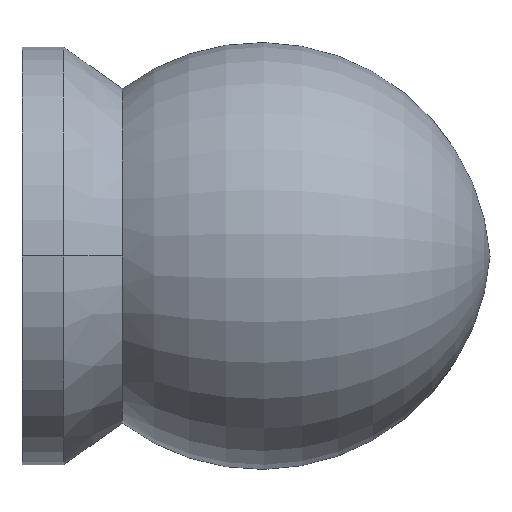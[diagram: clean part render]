
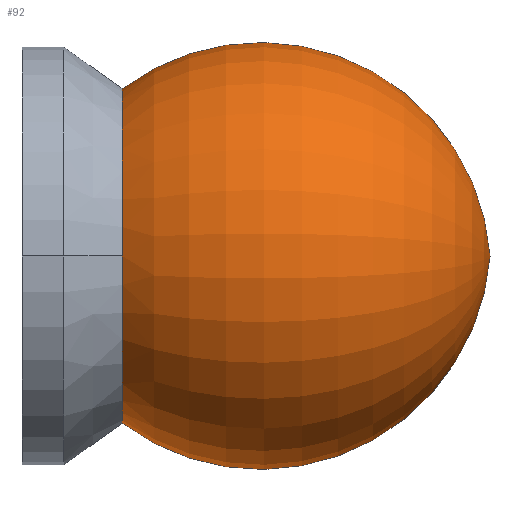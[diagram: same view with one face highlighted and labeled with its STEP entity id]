
A CAD part, left-side view. The second image highlights one B-rep face of the part: STEP entity #92.
In plain terms, the highlighted toroidal (fillet/blend) face has major radius 0.983 mm and minor radius 13.755 mm.
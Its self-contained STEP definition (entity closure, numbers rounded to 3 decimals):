
#76 = EDGE_CURVE( '', #102, #144, #181, .T. );
#78 = EDGE_CURVE( '', #144, #104, #183, .T. );
#84 = VERTEX_POINT( '', #192 );
#92 = ADVANCED_FACE( '', ( #201 ), #202, .T. );
#102 = VERTEX_POINT( '', #213 );
#104 = VERTEX_POINT( '', #215 );
#140 = EDGE_CURVE( '', #102, #84, #254, .T. );
#144 = VERTEX_POINT( '', #258 );
#146 = EDGE_CURVE( '', #84, #104, #260, .T. );
#181 = CIRCLE( '', #289, 10. );
#183 = CIRCLE( '', #292, 10. );
#192 = CARTESIAN_POINT( '', ( 0., -28., 0. ) );
#201 = FACE_OUTER_BOUND( '', #311, .T. );
#202 = TOROIDAL_SURFACE( '', #312, -0.983, 13.755 );
#213 = CARTESIAN_POINT( '', ( 0., -6., -10. ) );
#215 = CARTESIAN_POINT( '', ( 0., -6., 10. ) );
#254 = CIRCLE( '', #380, 13.755 );
#258 = CARTESIAN_POINT( '', ( -10., -6., 0. ) );
#260 = CIRCLE( '', #387, 13.755 );
#289 = AXIS2_PLACEMENT_3D( '', #416, #417, #418 );
#292 = AXIS2_PLACEMENT_3D( '', #419, #420, #421 );
#311 = EDGE_LOOP( '', ( #448, #449, #450, #451 ) );
#312 = AXIS2_PLACEMENT_3D( '', #452, #453, #454 );
#380 = AXIS2_PLACEMENT_3D( '', #512, #513, #514 );
#387 = AXIS2_PLACEMENT_3D( '', #515, #516, #517 );
#416 = CARTESIAN_POINT( '', ( 0., -6., 0. ) );
#417 = DIRECTION( '', ( 0., 1., 0. ) );
#418 = DIRECTION( '', ( 1., 0., 0. ) );
#419 = CARTESIAN_POINT( '', ( 0., -6., 0. ) );
#420 = DIRECTION( '', ( 0., 1., 0. ) );
#421 = DIRECTION( '', ( 1., 0., 0. ) );
#448 = ORIENTED_EDGE( '', *, *, #140, .T. );
#449 = ORIENTED_EDGE( '', *, *, #146, .T. );
#450 = ORIENTED_EDGE( '', *, *, #78, .F. );
#451 = ORIENTED_EDGE( '', *, *, #76, .F. );
#452 = CARTESIAN_POINT( '', ( 0., -14.28, 0. ) );
#453 = DIRECTION( '', ( 0., 1., 0. ) );
#454 = DIRECTION( '', ( 0., 0., 1. ) );
#512 = CARTESIAN_POINT( '', ( 0., -14.28, 0.983 ) );
#513 = DIRECTION( '', ( -1., 0., 0. ) );
#514 = DIRECTION( '', ( 0., 0., -1. ) );
#515 = CARTESIAN_POINT( '', ( 0., -14.28, -0.983 ) );
#516 = DIRECTION( '', ( -1., 0., 0. ) );
#517 = DIRECTION( '', ( 0., 0., 1. ) );
